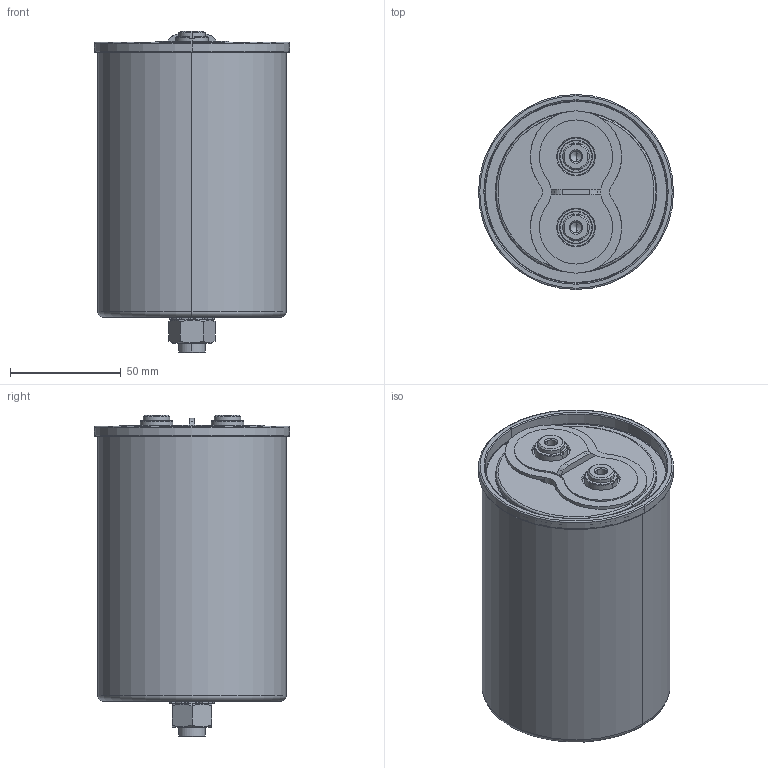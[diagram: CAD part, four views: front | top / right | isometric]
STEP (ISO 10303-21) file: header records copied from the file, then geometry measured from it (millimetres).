
FILE_DESCRIPTION (( 'STEP AP203' ), '1' );
FILE_NAME ('B25680Bx_85x124_129.STEP', '2021-09-10T03:39:00', ( '' ), ( '' ), 'SwSTEP 2.0', 'SolidWorks 2017', '' );
FILE_SCHEMA (( 'CONFIG_CONTROL_DESIGN' ));
Length unit declared in the file: millimetre
Products named in the file (1): B25680Bx_85x124_129
Bounding box: 88 x 88 x 145 mm (x, y, z)
Volume: 63223.5 mm3; surface area: 109861.6 mm2
Topology: 1 solids, 9 shells, 413 faces, 974 edges, 606 vertices
Faces by surface type: plane 163, cylinder 142, cone 42, bspline 36, torus 30
Entity records: 15024 total; most frequent: CARTESIAN_POINT 5318, DIRECTION 2138, ORIENTED_EDGE 1940, EDGE_CURVE 970, AXIS2_PLACEMENT_3D 858, VERTEX_POINT 606, CIRCLE 480, EDGE_LOOP 460
